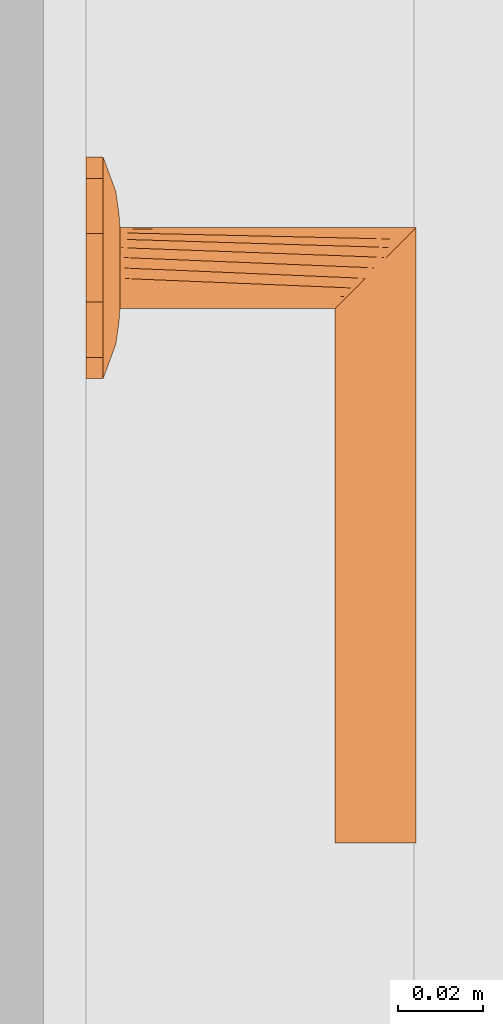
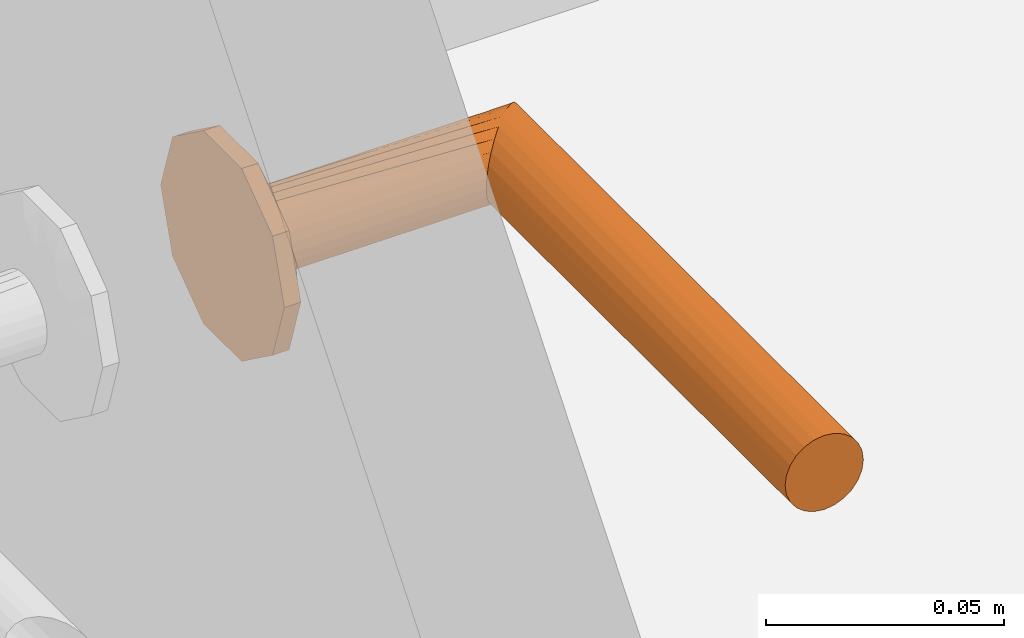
# One storey, part 110 of 125: 1 proxy.
"""IFC2X3 building model written with IfcOpenShell, lengths in millimetres."""

from ifc_helpers import new_model, entity, si_unit, converted_unit, direction, frame, origin, place, context, subcontext, project, spatial, faceted_brep, source, transform, mapped, material, type_object, type_shapes, element, save


model = new_model("IFC2X3")

# Units and contexts
model_context = context("Model", 3, precision=0.01, world=origin(), true_north=direction((6.123233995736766e-17, 1.0)))
plan_context = context("Plan", 3, precision=0.01, world=origin(), true_north=direction((6.123233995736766e-17, 1.0)))
body_context = subcontext(model_context, "Body", "Model", "MODEL_VIEW")
ifc_project = project(units=[si_unit("LENGTHUNIT", "METRE", prefix="MILLI"), converted_unit("PLANEANGLEUNIT", "DEGREE", entity("IfcPlaneAngleMeasure", 0.017453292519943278), si_unit("PLANEANGLEUNIT", "RADIAN"), dimensions=[0, 0, 0, 0, 0, 0, 0]), si_unit("AREAUNIT", "SQUARE_METRE")], contexts=[model_context, plan_context])

# Site, building, storey, space
site_placement = place(None, origin())
site = spatial("IfcSite", under=ifc_project, at=site_placement, Name="Default", CompositionType="ELEMENT")
building_placement = place(site_placement, origin())
building = spatial("IfcBuilding", under=site, at=building_placement, CompositionType="ELEMENT")
storey_placement = place(building_placement, frame((0.0, 0.0, 3125.0)))
storey = spatial("IfcBuildingStorey", under=building, at=storey_placement, Name="2K", CompositionType="ELEMENT", Elevation=3125.0)
space_placement = place(storey_placement, origin())
space = spatial("IfcSpace", under=storey, at=space_placement, Name="2-2.1", CompositionType="ELEMENT", InteriorOrExteriorSpace="INTERNAL")

# Proxy
ifc_material = material(Name="<Unnamed>")
building_element_proxy_type = type_object("IfcBuildingElementProxyType", Name="Door-handle_Lever_ABLOY_INOXI_3-19ss-002_RT:Default", PredefinedType="NOTDEFINED", material=ifc_material)
shared_shape = source(origin(), body_context, "Body", "Brep", [
    faceted_brep([(0.0, 0.0, 0.0), (21.034441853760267, -15.282416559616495, 0.0), (14.534441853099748, -20.00494299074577, 0.0), (8.034441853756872, -24.72746942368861, 0.0), (0.0, -24.72746942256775, 0.0), (23.51722092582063, -7.6412082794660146, 0.0), (26.0, 0.0, 0.0), (-8.034441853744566, -24.727469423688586, 0.0), (-14.534441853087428, -20.00494299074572, 0.0), (-21.03444185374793, -15.282416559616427, 0.0), (-23.517220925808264, -7.641208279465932, 0.0), (-26.0, 0.0, 0.0), (-23.517220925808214, 7.641208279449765, 0.0), (23.517220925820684, 7.641208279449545, 0.0), (21.034441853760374, 15.282416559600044, 0.0), (14.53444185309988, 20.00494299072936, 0.0), (8.034441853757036, 24.72746942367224, 0.0), (-21.034441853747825, 15.282416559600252, 0.0), (-14.53444185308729, 20.004942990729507, 0.0), (-8.0344418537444, 24.72746942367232, 0.0), (0.0, 24.72746942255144, 0.0), (0.0, 0.0, 8.0), (4.7500000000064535, -8.227241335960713, 8.0), (5.937500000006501, -6.170431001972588, 8.0), (7.125000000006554, -4.113620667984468, 8.0), (8.312500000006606, -2.0568103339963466, 8.0), (9.500000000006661, 0.0, 8.0), (8.312500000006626, 2.056810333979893, 8.0), (2.3750000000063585, -8.227241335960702, 8.0), (0.0, -8.227241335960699, 8.0), (-2.3749999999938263, -8.227241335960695, 8.0), (-4.749999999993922, -8.227241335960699, 8.0), (-5.937499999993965, -6.170431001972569, 8.0), (-7.124999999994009, -4.113620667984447, 8.0), (-8.312499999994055, -2.056810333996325, 8.0), (-9.499999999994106, 0.0, 8.0), (7.125000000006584, 4.113620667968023, 8.0), (5.937500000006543, 6.170431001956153, 8.0), (4.750000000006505, 8.227241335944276, 8.0), (2.3750000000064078, 8.22724133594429, 8.0), (-8.31249999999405, 2.0568103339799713, 8.0), (-7.12499999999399, 4.113620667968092, 8.0), (-5.9374999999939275, 6.170431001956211, 8.0), (-4.74999999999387, 8.227241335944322, 8.0), (0.0, 8.227241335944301, 8.0), (-2.374999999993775, 8.227241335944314, 8.0), (-22.488765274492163, -10.806469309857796, 4.030771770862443), (-16.663919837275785, -7.932665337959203, 6.877259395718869), (-20.643071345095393, -6.292822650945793, 5.929480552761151), (-12.50457926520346, -5.179566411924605, 7.774932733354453), (-16.764060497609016, -3.820257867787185, 7.1747985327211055), (-9.071726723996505, -10.311606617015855, 7.7520782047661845), (-11.963426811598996, -8.625290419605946, 7.618343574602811), (-11.979136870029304, -13.678312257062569, 6.945778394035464), (5.7585542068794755, -20.96753300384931, 5.871476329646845), (0.0, -24.72746942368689, 4.030771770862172), (8.03444185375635, -24.727469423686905, 4.030771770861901), (16.66391982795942, -7.932665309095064, 6.877259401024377), (22.488765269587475, -10.806469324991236, 4.03077177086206), (20.64307133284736, -6.29282258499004, 5.929480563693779), (14.534441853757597, -20.004942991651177, 4.030771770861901), (9.499431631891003, -18.64368355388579, 6.154325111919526), (-15.783149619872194, -11.991003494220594, 6.50080018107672), (-21.034441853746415, -15.282416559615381, 4.030771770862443), (-14.53444185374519, -20.00494299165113, 4.030771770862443), (-23.012042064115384, 0.0, 5.135401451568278), (-23.943088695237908, -6.330522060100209, 4.030771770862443), (11.96342678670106, -8.62529049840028, 7.618343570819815), (12.504579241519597, -5.179566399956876, 7.774932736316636), (16.764060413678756, -3.8202578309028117, 7.17479855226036), (15.783149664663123, -11.991003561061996, 6.50080015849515), (17.985351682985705, 0.0, 6.993737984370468), (23.012042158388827, 0.0, 5.135401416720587), (8.661516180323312, -10.478936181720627, 7.768126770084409), (-8.03444185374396, -24.727469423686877, 4.030771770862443), (-3.3573143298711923, -21.197247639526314, 5.971427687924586), (-9.941915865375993, -17.061976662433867, 6.522757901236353), (-5.973257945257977, -16.430139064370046, 7.110979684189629), (-7.711266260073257, -12.760344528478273, 7.594456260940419), (11.979136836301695, -13.678312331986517, 6.945778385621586), (7.511307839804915, -13.358932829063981, 7.529187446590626), (5.953298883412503, -16.50608604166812, 7.096344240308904), (-1.5654593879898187, -15.307443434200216, 7.519134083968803), (-7.784980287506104, -20.476295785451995, 5.812837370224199), (2.8135289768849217, -17.76392260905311, 6.993737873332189), (-17.98535168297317, 0.0, 6.993737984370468), (-26.0, 0.0, 4.030771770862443), (-23.51722092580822, -7.641208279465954, 4.030771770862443), (23.943088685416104, -6.33052209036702, 4.030771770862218), (24.308823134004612, -5.204907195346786, 4.030771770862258), (26.0, 0.0, 4.030771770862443), (21.03444185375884, -15.282416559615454, 4.030771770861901), (22.617646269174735, -10.40981439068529, 4.030771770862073), (22.488765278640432, 10.806469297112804, 4.030771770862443), (16.66391984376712, 7.932665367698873, 6.877259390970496), (20.643071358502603, 6.292822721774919, 5.929480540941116), (12.504579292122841, 5.179566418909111, 7.774932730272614), (16.764060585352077, 3.8202579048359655, 7.174798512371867), (9.07172672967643, 10.31160659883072, 7.752078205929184), (11.963426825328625, 8.62529034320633, 7.618343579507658), (11.979136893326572, 13.67831220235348, 6.9457784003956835), (-5.758554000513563, 20.96753314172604, 5.8714763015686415), (0.0, 24.72746942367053, 4.030771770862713), (-8.03444185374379, 24.72746942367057, 4.030771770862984), (-16.663919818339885, 7.932665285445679, 6.877259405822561), (-22.48876526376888, 10.806469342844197, 4.030771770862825), (-20.643071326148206, 6.2928225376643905, 5.929480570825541), (-14.534441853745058, 20.004942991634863, 4.030771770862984), (-9.499431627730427, 18.643683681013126, 6.154325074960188), (15.783149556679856, 11.991003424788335, 6.5008002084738), (21.03444185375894, 15.282416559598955, 4.030771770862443), (14.534441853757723, 20.004942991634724, 4.030771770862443), (23.943088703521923, 6.330522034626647, 4.030771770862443), (-11.96342675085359, 8.625290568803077, 7.618343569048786), (-12.504579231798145, 5.179566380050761, 7.77493273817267), (-16.764060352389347, 3.820257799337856, 7.174798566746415), (-15.78314967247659, 11.991003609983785, 6.500800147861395), (-8.661516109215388, 10.478936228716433, 7.768126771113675), (8.034441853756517, 24.727469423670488, 4.030771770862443), (3.3573144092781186, 21.197247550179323, 5.971427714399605), (9.941915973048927, 17.061976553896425, 6.522757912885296), (5.9732581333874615, 16.430139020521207, 7.110979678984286), (7.711266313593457, 12.760344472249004, 7.5944562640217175), (-11.979136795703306, 13.678312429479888, 6.945778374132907), (-7.511307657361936, 13.358932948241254, 7.5291874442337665), (-5.9532988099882, 16.50608628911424, 7.096344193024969), (1.5654596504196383, 15.3074431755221, 7.519134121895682), (7.784980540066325, 20.476295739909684, 5.812837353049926), (-2.81352881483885, 17.76392263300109, 6.993737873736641), (23.51722092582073, 7.6412082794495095, 4.030771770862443), (-23.94308867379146, 6.330522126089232, 4.030771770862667), (-24.308823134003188, 5.20490719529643, 4.030771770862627), (-21.034441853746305, 15.282416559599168, 4.030771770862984), (-22.617646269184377, 10.409814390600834, 4.0307717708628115)], [[[0, 1, 2]], [[0, 2, 3]], [[0, 3, 4]], [[0, 5, 1]], [[0, 6, 5]], [[0, 4, 7]], [[0, 7, 8]], [[0, 8, 9]], [[0, 9, 10]], [[0, 10, 11]], [[0, 11, 12]], [[0, 13, 6]], [[0, 14, 13]], [[0, 15, 14]], [[0, 16, 15]], [[0, 12, 17]], [[0, 17, 18]], [[0, 18, 19]], [[0, 19, 20]], [[0, 20, 16]], [[21, 22, 23]], [[21, 23, 24]], [[21, 24, 25]], [[21, 25, 26]], [[21, 26, 27]], [[21, 28, 22]], [[21, 29, 28]], [[21, 30, 29]], [[21, 31, 30]], [[21, 32, 31]], [[21, 33, 32]], [[21, 34, 33]], [[21, 35, 34]], [[21, 27, 36]], [[21, 36, 37]], [[21, 37, 38]], [[21, 38, 39]], [[21, 40, 35]], [[21, 41, 40]], [[21, 42, 41]], [[21, 43, 42]], [[21, 39, 44]], [[21, 44, 45]], [[21, 45, 43]], [[46, 47, 48]], [[47, 49, 50]], [[49, 33, 34]], [[51, 52, 53]], [[49, 52, 33]], [[48, 47, 50]], [[54, 55, 56]], [[57, 58, 59]], [[56, 60, 61]], [[62, 63, 64]], [[65, 66, 48]], [[67, 57, 68]], [[68, 69, 25]], [[57, 67, 70]], [[69, 26, 25]], [[62, 53, 52]], [[71, 69, 72]], [[67, 23, 73]], [[74, 55, 75]], [[76, 77, 78]], [[79, 60, 70]], [[69, 59, 72]], [[80, 81, 61]], [[77, 30, 78]], [[82, 30, 77]], [[28, 80, 22]], [[77, 83, 75]], [[75, 82, 77]], [[55, 84, 75]], [[85, 50, 35]], [[24, 68, 25]], [[82, 84, 29]], [[84, 82, 75]], [[31, 78, 30]], [[82, 29, 30]], [[34, 35, 50]], [[52, 49, 47]], [[62, 52, 47]], [[34, 50, 49]], [[53, 78, 51]], [[32, 33, 52]], [[85, 65, 50]], [[66, 65, 86]], [[67, 68, 24]], [[77, 76, 83]], [[65, 48, 50]], [[63, 62, 46]], [[48, 66, 87, 46]], [[62, 47, 46]], [[69, 68, 57]], [[80, 73, 22]], [[70, 67, 79]], [[67, 24, 23]], [[72, 88, 89, 90]], [[69, 71, 26]], [[59, 69, 57]], [[61, 60, 79]], [[62, 64, 53]], [[91, 58, 70]], [[72, 59, 88]], [[57, 70, 58]], [[59, 58, 92]], [[80, 61, 79]], [[91, 70, 60]], [[61, 81, 54]], [[73, 80, 79]], [[28, 84, 81]], [[67, 73, 79]], [[29, 84, 28]], [[22, 73, 23]], [[51, 31, 32]], [[76, 78, 53]], [[53, 64, 76]], [[83, 64, 74]], [[64, 83, 76]], [[75, 83, 74]], [[31, 51, 78]], [[52, 51, 32]], [[28, 81, 80]], [[54, 81, 84]], [[55, 54, 84]], [[61, 54, 56]], [[93, 94, 95]], [[94, 96, 97]], [[96, 36, 27]], [[98, 99, 100]], [[96, 99, 36]], [[95, 94, 97]], [[101, 102, 103]], [[104, 105, 106]], [[103, 107, 108]], [[109, 110, 111]], [[72, 112, 95]], [[113, 104, 114]], [[114, 115, 40]], [[104, 113, 116]], [[115, 35, 40]], [[109, 100, 99]], [[85, 115, 65]], [[113, 42, 117]], [[118, 102, 119]], [[120, 121, 122]], [[123, 107, 116]], [[115, 106, 65]], [[124, 125, 108]], [[121, 39, 122]], [[126, 39, 121]], [[45, 124, 43]], [[121, 127, 119]], [[119, 126, 121]], [[102, 128, 119]], [[71, 97, 26]], [[41, 114, 40]], [[126, 128, 44]], [[128, 126, 119]], [[38, 122, 39]], [[126, 44, 39]], [[27, 26, 97]], [[99, 96, 94]], [[109, 99, 94]], [[27, 97, 96]], [[100, 122, 98]], [[37, 36, 99]], [[71, 72, 97]], [[112, 72, 90]], [[113, 114, 41]], [[121, 120, 127]], [[72, 95, 97]], [[110, 109, 93]], [[95, 112, 129, 93]], [[109, 94, 93]], [[115, 114, 104]], [[124, 117, 43]], [[116, 113, 123]], [[113, 41, 42]], [[65, 130, 131, 86]], [[115, 85, 35]], [[106, 115, 104]], [[108, 107, 123]], [[109, 111, 100]], [[132, 105, 116]], [[65, 106, 130]], [[104, 116, 105]], [[106, 105, 133]], [[124, 108, 123]], [[132, 116, 107]], [[108, 125, 101]], [[117, 124, 123]], [[45, 128, 125]], [[113, 117, 123]], [[44, 128, 45]], [[43, 117, 42]], [[98, 38, 37]], [[120, 122, 100]], [[100, 111, 120]], [[127, 111, 118]], [[111, 127, 120]], [[119, 127, 118]], [[38, 98, 122]], [[99, 98, 37]], [[45, 125, 124]], [[101, 125, 128]], [[102, 101, 128]], [[108, 101, 103]], [[7, 74, 64, 63, 9, 8]], [[10, 9, 63, 46, 87, 66, 86, 11]], [[6, 90, 89, 88, 92, 1, 5]], [[1, 58, 91]], [[74, 7, 4, 3, 56, 55]], [[60, 56, 3, 2, 1, 91]], [[1, 92, 58]], [[14, 110, 93, 129, 112, 90, 6, 13]], [[111, 110, 14, 15, 16, 118]], [[11, 86, 131, 130, 133, 17, 12]], [[17, 105, 132]], [[118, 16, 20, 19, 103, 102]], [[107, 103, 19, 18, 17, 132]], [[17, 133, 105]], [[59, 92, 88]], [[106, 133, 130]]]),
    faceted_brep([(4.7499999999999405, -8.22724133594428, 8.0), (2.4587809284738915, -9.176295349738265, 8.0), (0.0, -9.499999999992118, 8.0), (-2.4587809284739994, -9.176295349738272, 8.0), (-4.7500000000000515, -8.227241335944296, 8.0), (-6.717514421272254, -6.717514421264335, 8.0), (-8.227241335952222, -4.74999999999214, 8.0), (-9.176295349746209, -2.4587809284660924, 8.0), (-9.500000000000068, 0.0, 8.0), (-9.176295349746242, 2.458780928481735, 8.0), (-8.227241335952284, 4.750000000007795, 8.0), (-6.717514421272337, 6.717514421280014, 8.0), (-4.750000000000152, 8.227241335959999, 8.0), (-2.4587809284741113, 9.176295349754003, 8.0), (0.0, 9.500000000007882, 8.0), (2.4587809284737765, 9.176295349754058, 8.0), (4.7499999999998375, 8.227241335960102, 8.0), (6.717514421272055, 6.717514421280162, 8.0), (8.22724133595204, 4.75000000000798, 8.0), (9.17629534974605, 2.458780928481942, 8.0), (9.499999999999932, 0.0, 8.0), (9.17629534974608, -2.458780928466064, 8.0), (8.227241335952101, -4.749999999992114, 8.0), (6.717514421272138, -6.7175144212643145, 8.0), (-8.227241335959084, 4.7499999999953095, 59.772758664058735), (-6.717514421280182, 6.7175144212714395, 61.282485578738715), (-9.176295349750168, 2.458780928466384, 58.82370465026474), (-4.750000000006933, 8.227241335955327, 63.25000000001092), (-2.4587809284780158, 9.176295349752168, 65.54121907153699), (-9.500000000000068, 0.0, 58.50000000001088), (0.0, 9.50000000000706, 68.0), (4.750000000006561, 8.227241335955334, 72.75000000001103), (2.4587809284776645, 9.17629534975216, 70.45878092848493), (6.717514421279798, 6.7175144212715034, 74.71751442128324), (8.22724133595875, 4.749999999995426, 76.22724133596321), (9.17629534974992, 2.458780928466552, 77.17629534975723), (9.499999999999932, 0.0, 77.50000000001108), (9.176295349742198, -2.4587809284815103, 77.1762953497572), (8.227241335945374, -4.750000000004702, 76.22724133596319), (6.7175144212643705, -6.717514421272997, 74.7175144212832), (4.749999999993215, -8.227241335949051, 72.75000000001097), (2.4587809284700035, -9.17629534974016, 70.45878092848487), (0.0, -9.49999999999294, 68.0), (-2.4587809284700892, -9.176295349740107, 65.54121907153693), (-4.749999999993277, -8.227241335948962, 63.250000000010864), (-6.717514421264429, -6.717514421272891, 61.282485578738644), (-9.176295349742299, -2.458780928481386, 58.8237046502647), (-8.227241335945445, -4.750000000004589, 59.77275866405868), (-135.0, -9.176295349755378, 70.4587809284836), (-135.0, -8.227241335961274, 72.75000000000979), (-135.0, -6.717514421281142, 74.71751442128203), (-135.0, -4.750000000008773, 76.22724133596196), (-135.0, -2.4587809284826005, 77.17629534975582), (-135.0, 0.0, 77.5000000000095), (-135.0, 2.4587809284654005, 77.17629534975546), (-135.0, 4.749999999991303, 76.22724133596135), (-135.0, 6.717514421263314, 74.71751442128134), (-135.0, 8.227241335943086, 72.75000000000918), (-135.0, 9.17629534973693, 70.45878092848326), (-135.0, 9.499999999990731, 68.0), (-135.0, 9.17629534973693, 65.54121907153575), (-135.0, 8.227241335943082, 63.250000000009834), (-135.0, 6.717514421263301, 61.28248557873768), (-135.0, 4.749999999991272, 59.772758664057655), (-135.0, 2.458780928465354, 58.823704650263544), (-135.0, 0.0, 58.50000000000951), (-135.0, -2.458780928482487, 58.82370465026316), (-135.0, -4.750000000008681, 59.772758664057), (-135.0, -6.7175144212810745, 61.28248557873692), (-135.0, -8.227241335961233, 63.25000000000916), (-135.0, -9.176295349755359, 65.54121907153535), (-135.0, -9.500000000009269, 68.0)], [[[0, 1, 2, 3, 4, 5, 6, 7, 8, 9, 10, 11, 12, 13, 14, 15, 16, 17, 18, 19, 20, 21, 22, 23]], [[24, 25, 11, 10]], [[26, 24, 10, 9]], [[14, 27, 28]], [[13, 27, 14]], [[25, 27, 13]], [[29, 26, 9, 8]], [[12, 11, 25]], [[25, 13, 12]], [[28, 30, 15]], [[31, 17, 32]], [[33, 18, 31]], [[19, 34, 35]], [[33, 34, 19]], [[20, 19, 35, 36]], [[16, 15, 30]], [[14, 28, 15]], [[19, 18, 33]], [[17, 31, 18]], [[17, 16, 32]], [[30, 32, 16]], [[20, 36, 37, 21]], [[38, 21, 37]], [[22, 39, 40]], [[38, 39, 21]], [[23, 40, 41]], [[39, 22, 21]], [[1, 42, 43]], [[42, 1, 0]], [[23, 41, 0]], [[23, 22, 40]], [[41, 42, 0]], [[44, 45, 3]], [[43, 44, 2]], [[46, 29, 8, 7]], [[47, 46, 7, 6]], [[45, 47, 6, 5]], [[45, 4, 3]], [[3, 2, 44]], [[5, 4, 45]], [[43, 2, 1]], [[48, 49, 50, 51, 52, 53, 54, 55, 56, 57, 58, 59, 60, 61, 62, 63, 64, 65, 66, 67, 68, 69, 70, 71]], [[64, 63, 24, 26]], [[65, 64, 26, 29]], [[61, 60, 28, 27]], [[62, 61, 27, 25]], [[63, 62, 25, 24]], [[59, 30, 28, 60]], [[57, 56, 33, 31]], [[58, 57, 31, 32]], [[54, 53, 36, 35]], [[55, 54, 35, 34]], [[56, 55, 34, 33]], [[32, 30, 59, 58]], [[52, 51, 38, 37]], [[53, 52, 37, 36]], [[49, 48, 41, 40]], [[50, 49, 40, 39]], [[51, 50, 39, 38]], [[42, 41, 48, 71]], [[69, 68, 45, 44]], [[70, 69, 44, 43]], [[66, 65, 29, 46]], [[67, 66, 46, 47]], [[68, 67, 47, 45]], [[42, 71, 70, 43]]]),
])
type_shapes(building_element_proxy_type, [shared_shape])
proxy_placement = place(space_placement, frame((5298.0, 10430.0, 1000.0), z_axis=(1.0, 0.0, 0.0), x_axis=(0.0, 1.0, 0.0)))
element("IfcBuildingElementProxy", 1, at=proxy_placement, inside=space, type_object=building_element_proxy_type, material=ifc_material, Name="Door-handle_Lever_ABLOY_INOXI_3-19ss-002_RT:Default", ObjectType="Door-handle_Lever_ABLOY_INOXI_3-19ss-002_RT:Default", context=body_context, shape_type="MappedRepresentation", body=[
    mapped(shared_shape, transform((0.0, 0.0, 0.0), scale=1.0)),
])

save(model, "model.ifc")
